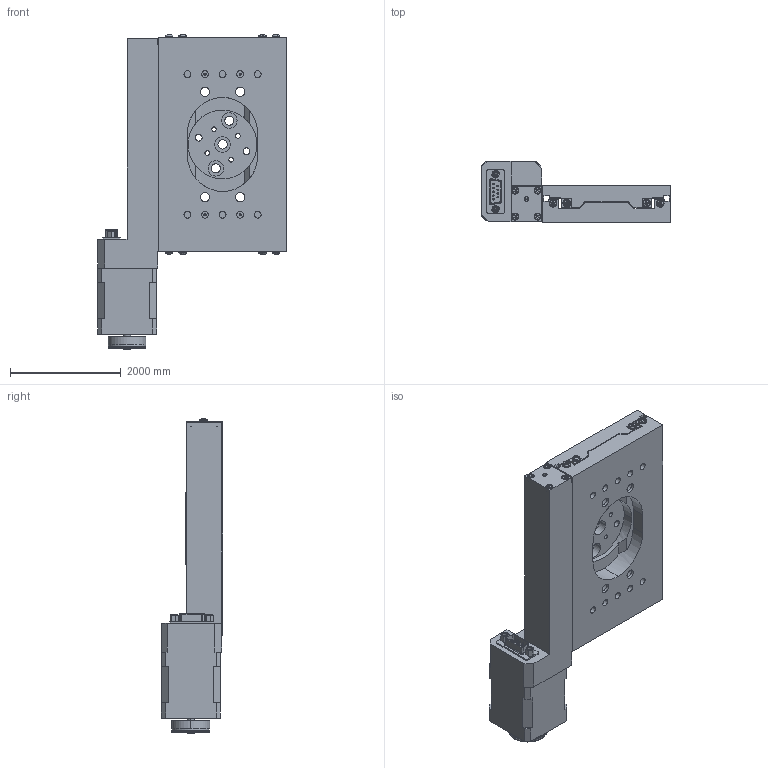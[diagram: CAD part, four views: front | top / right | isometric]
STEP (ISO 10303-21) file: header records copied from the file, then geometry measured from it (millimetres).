
FILE_DESCRIPTION (( 'STEP AP203' ), '1' );
FILE_NAME ('8MT167-100.STEP', '2008-11-26T05:20:16', ( 'Darius' ), ( '' ), 'SwSTEP 2.0', 'SolidWorks 2003240', '' );
FILE_SCHEMA (( 'CONFIG_CONTROL_DESIGN' ));
Products named in the file (1): 8MT167-100
Bounding box: 3416.3 x 1107.44 x 5698.97 mm (x, y, z)
Volume: 7767522587.4 mm3; surface area: 77442989.8 mm2
Topology: 1 solids, 33 shells, 2218 faces, 6182 edges, 3986 vertices
Faces by surface type: plane 783, cylinder 772, cone 398, bspline 265
Entity records: 83844 total; most frequent: CARTESIAN_POINT 29768, ORIENTED_EDGE 12044, DIRECTION 10402, EDGE_CURVE 6022, VERTEX_POINT 3986, AXIS2_PLACEMENT_3D 3952, LINE 2498, VECTOR 2498
